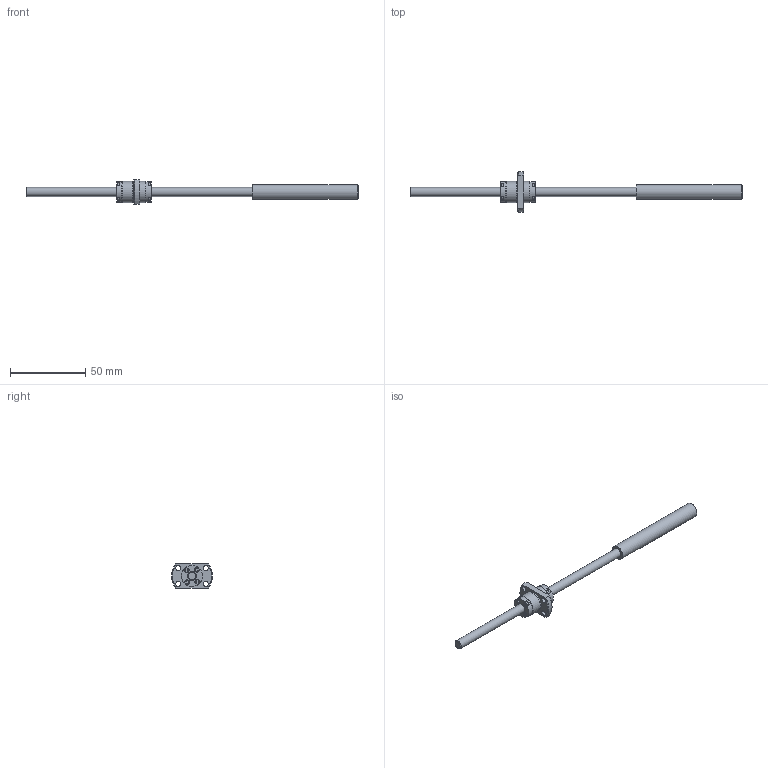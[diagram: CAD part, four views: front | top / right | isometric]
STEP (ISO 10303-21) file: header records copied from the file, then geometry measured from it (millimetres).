
FILE_DESCRIPTION(/* description */ ('STEP AP214'),/* implementation_level */ '2;1');
FILE_NAME(/* name */ 'SRT0610-146R220C7A0X(60None)',/* time_stamp */ '2026-08-04T17:57:13+02:00',/* author */ ('License CC BY-ND 4.0'),/* organization */ ('CADENAS'),/* preprocessor_version */ 'ST-DEVELOPER v20',/* originating_system */ 'PARTsolutions',/* authorisation */ ' ');
FILE_SCHEMA (('AUTOMOTIVE_DESIGN {1 0 10303 214 3 1 1}'));
Length unit declared in the file: millimetre
Products named in the file (3): SRT0610-146R220C7A0X(60None); SRT0610-146R220ACt7None25Shaft; SRT0610Nut
Assembly tree (2 placements, depth 2):
  SRT0610-146R220C7A0X(60None)
    SRT0610-146R220ACt7None25Shaft
    SRT0610Nut
Bounding box: 220 x 27 x 16 mm (x, y, z)
Volume: 13019.8 mm3; surface area: 7751.5 mm2
Topology: 2 solids, 2 shells, 138 faces, 332 edges, 220 vertices
Faces by surface type: plane 100, cylinder 30, cone 8
Full cylindrical faces by diameter (mm): 3 x8, 3.4 x4, 6 x2, 9.7 x1, 13.6 x1, 13.8 x2, 14 x2
Entity records: 3971 total; most frequent: CARTESIAN_POINT 689, DIRECTION 662, ORIENTED_EDGE 612, EDGE_CURVE 306, AXIS2_PLACEMENT_3D 223, VERTEX_POINT 218, LINE 216, VECTOR 216
